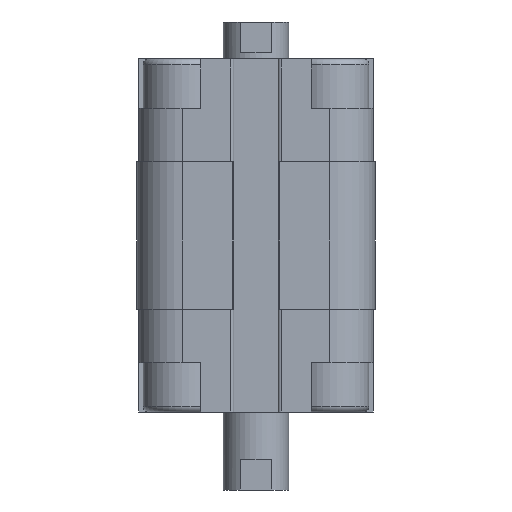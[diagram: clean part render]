
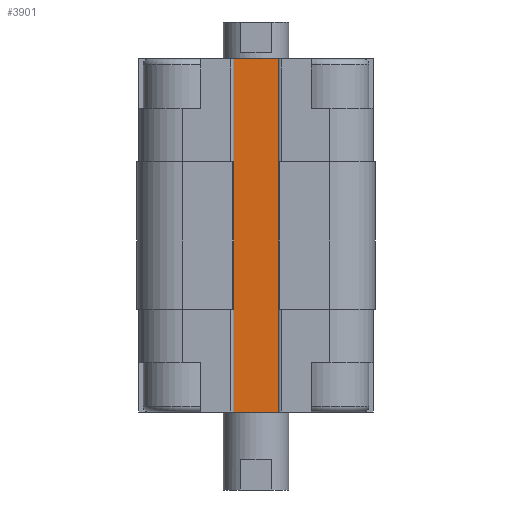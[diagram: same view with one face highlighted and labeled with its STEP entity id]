
A CAD part, front view. The second image highlights one B-rep face of the part: STEP entity #3901.
In plain terms, the highlighted planar face has unit normal (0, -1, 0).
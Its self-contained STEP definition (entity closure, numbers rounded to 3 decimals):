
#115 = CARTESIAN_POINT ( 'NONE',  ( -3., -9.5, 0. ) ) ;
#165 = EDGE_CURVE ( 'NONE', #3560, #2883, #1873, .T. ) ;
#204 = ORIENTED_EDGE ( 'NONE', *, *, #870, .F. ) ;
#387 = ORIENTED_EDGE ( 'NONE', *, *, #10292, .T. ) ;
#528 = EDGE_CURVE ( 'NONE', #15450, #5843, #16664, .T. ) ;
#870 = EDGE_CURVE ( 'NONE', #7872, #7809, #14995, .T. ) ;
#1181 = DIRECTION ( 'NONE',  ( 0., 0., 1. ) ) ;
#1359 = VECTOR ( 'NONE', #11125, 1000. ) ;
#1843 = DIRECTION ( 'NONE',  ( 0., 0., 1. ) ) ;
#1873 = LINE ( 'NONE', #10033, #1359 ) ;
#1909 = ORIENTED_EDGE ( 'NONE', *, *, #9753, .T. ) ;
#2014 = EDGE_LOOP ( 'NONE', ( #2110, #204, #8132, #13985, #6516, #9362, #387, #7762, #3799, #1909, #8771, #4314 ) ) ;
#2110 = ORIENTED_EDGE ( 'NONE', *, *, #2886, .F. ) ;
#2193 = LINE ( 'NONE', #6233, #3346 ) ;
#2379 = CARTESIAN_POINT ( 'NONE',  ( 3., -9.5, -43. ) ) ;
#2659 = DIRECTION ( 'NONE',  ( 1., 0., 0. ) ) ;
#2714 = DIRECTION ( 'NONE',  ( 0., 0., 1. ) ) ;
#2883 = VERTEX_POINT ( 'NONE', #5489 ) ;
#2886 = EDGE_CURVE ( 'NONE', #7809, #3159, #5578, .T. ) ;
#2922 = VECTOR ( 'NONE', #2659, 1000. ) ;
#2937 = DIRECTION ( 'NONE',  ( 0., 0., 1. ) ) ;
#3159 = VERTEX_POINT ( 'NONE', #11908 ) ;
#3346 = VECTOR ( 'NONE', #4886, 1000. ) ;
#3525 = FACE_OUTER_BOUND ( 'NONE', #2014, .T. ) ;
#3560 = VERTEX_POINT ( 'NONE', #12064 ) ;
#3799 = ORIENTED_EDGE ( 'NONE', *, *, #13573, .T. ) ;
#3901 = ADVANCED_FACE ( 'NONE', ( #3525 ), #16078, .T. ) ;
#4034 = EDGE_CURVE ( 'NONE', #3560, #3159, #4324, .T. ) ;
#4149 = CARTESIAN_POINT ( 'NONE',  ( -3., -9.5, -12.5 ) ) ;
#4314 = ORIENTED_EDGE ( 'NONE', *, *, #4034, .T. ) ;
#4324 = LINE ( 'NONE', #8269, #7095 ) ;
#4886 = DIRECTION ( 'NONE',  ( 1., 0., 0. ) ) ;
#5012 = DIRECTION ( 'NONE',  ( 0., 0., 1. ) ) ;
#5100 = EDGE_CURVE ( 'NONE', #16926, #5843, #9343, .T. ) ;
#5411 = CARTESIAN_POINT ( 'NONE',  ( -3.2, -9.5, -30.5 ) ) ;
#5489 = CARTESIAN_POINT ( 'NONE',  ( 3.2, -9.5, -12.5 ) ) ;
#5578 = LINE ( 'NONE', #10781, #15739 ) ;
#5843 = VERTEX_POINT ( 'NONE', #10040 ) ;
#6231 = AXIS2_PLACEMENT_3D ( 'NONE', #14810, #14629, #14537 ) ;
#6233 = CARTESIAN_POINT ( 'NONE',  ( -3.2, -9.5, -30.5 ) ) ;
#6344 = EDGE_CURVE ( 'NONE', #17343, #6444, #11812, .T. ) ;
#6444 = VERTEX_POINT ( 'NONE', #16374 ) ;
#6449 = CARTESIAN_POINT ( 'NONE',  ( 3.2, -9.5, -30.5 ) ) ;
#6516 = ORIENTED_EDGE ( 'NONE', *, *, #5100, .T. ) ;
#7023 = CARTESIAN_POINT ( 'NONE',  ( -3., -9.5, -12.5 ) ) ;
#7095 = VECTOR ( 'NONE', #1181, 1000. ) ;
#7122 = DIRECTION ( 'NONE',  ( 1., 0., 0. ) ) ;
#7231 = CARTESIAN_POINT ( 'NONE',  ( -3., -9.5, -43. ) ) ;
#7762 = ORIENTED_EDGE ( 'NONE', *, *, #6344, .T. ) ;
#7809 = VERTEX_POINT ( 'NONE', #115 ) ;
#7872 = VERTEX_POINT ( 'NONE', #7023 ) ;
#7961 = LINE ( 'NONE', #13422, #15393 ) ;
#7977 = LINE ( 'NONE', #6449, #9192 ) ;
#8132 = ORIENTED_EDGE ( 'NONE', *, *, #12049, .F. ) ;
#8269 = CARTESIAN_POINT ( 'NONE',  ( 3., -9.5, -12.5 ) ) ;
#8368 = VECTOR ( 'NONE', #11559, 1000. ) ;
#8630 = CARTESIAN_POINT ( 'NONE',  ( -3.2, -9.5, -12.5 ) ) ;
#8771 = ORIENTED_EDGE ( 'NONE', *, *, #165, .F. ) ;
#9192 = VECTOR ( 'NONE', #5012, 1000. ) ;
#9343 = LINE ( 'NONE', #17342, #9783 ) ;
#9362 = ORIENTED_EDGE ( 'NONE', *, *, #528, .F. ) ;
#9367 = VECTOR ( 'NONE', #2937, 1000. ) ;
#9523 = VECTOR ( 'NONE', #1843, 1000. ) ;
#9753 = EDGE_CURVE ( 'NONE', #17444, #2883, #7977, .T. ) ;
#9783 = VECTOR ( 'NONE', #10606, 1000. ) ;
#10033 = CARTESIAN_POINT ( 'NONE',  ( 9., -9.5, -12.5 ) ) ;
#10040 = CARTESIAN_POINT ( 'NONE',  ( -3., -9.5, -30.5 ) ) ;
#10292 = EDGE_CURVE ( 'NONE', #15450, #17343, #12166, .T. ) ;
#10606 = DIRECTION ( 'NONE',  ( 1., 0., 0. ) ) ;
#10781 = CARTESIAN_POINT ( 'NONE',  ( -3., -9.5, 0. ) ) ;
#10961 = CARTESIAN_POINT ( 'NONE',  ( 3.2, -9.5, -30.5 ) ) ;
#10965 = DIRECTION ( 'NONE',  ( 1., 0., 0. ) ) ;
#11125 = DIRECTION ( 'NONE',  ( 1., 0., 0. ) ) ;
#11270 = CARTESIAN_POINT ( 'NONE',  ( -3.2, -9.5, -30.5 ) ) ;
#11559 = DIRECTION ( 'NONE',  ( 0., 0., 1. ) ) ;
#11812 = LINE ( 'NONE', #2379, #8368 ) ;
#11908 = CARTESIAN_POINT ( 'NONE',  ( 3., -9.5, 0. ) ) ;
#12049 = EDGE_CURVE ( 'NONE', #14308, #7872, #7961, .T. ) ;
#12064 = CARTESIAN_POINT ( 'NONE',  ( 3., -9.5, -12.5 ) ) ;
#12166 = LINE ( 'NONE', #17645, #2922 ) ;
#13422 = CARTESIAN_POINT ( 'NONE',  ( -3.2, -9.5, -12.5 ) ) ;
#13573 = EDGE_CURVE ( 'NONE', #6444, #17444, #2193, .T. ) ;
#13955 = CARTESIAN_POINT ( 'NONE',  ( -3., -9.5, -43. ) ) ;
#13985 = ORIENTED_EDGE ( 'NONE', *, *, #16627, .F. ) ;
#14308 = VERTEX_POINT ( 'NONE', #8630 ) ;
#14537 = DIRECTION ( 'NONE',  ( -1., 0., 0. ) ) ;
#14629 = DIRECTION ( 'NONE',  ( 0., -1., 0. ) ) ;
#14810 = CARTESIAN_POINT ( 'NONE',  ( -3., -9.5, -12.5 ) ) ;
#14895 = CARTESIAN_POINT ( 'NONE',  ( 3., -9.5, -43. ) ) ;
#14995 = LINE ( 'NONE', #4149, #17729 ) ;
#15393 = VECTOR ( 'NONE', #7122, 1000. ) ;
#15450 = VERTEX_POINT ( 'NONE', #7231 ) ;
#15739 = VECTOR ( 'NONE', #10965, 1000. ) ;
#16078 = PLANE ( 'NONE',  #6231 ) ;
#16374 = CARTESIAN_POINT ( 'NONE',  ( 3., -9.5, -30.5 ) ) ;
#16627 = EDGE_CURVE ( 'NONE', #16926, #14308, #16745, .T. ) ;
#16664 = LINE ( 'NONE', #13955, #9367 ) ;
#16745 = LINE ( 'NONE', #11270, #9523 ) ;
#16926 = VERTEX_POINT ( 'NONE', #5411 ) ;
#17342 = CARTESIAN_POINT ( 'NONE',  ( -3.2, -9.5, -30.5 ) ) ;
#17343 = VERTEX_POINT ( 'NONE', #14895 ) ;
#17444 = VERTEX_POINT ( 'NONE', #10961 ) ;
#17645 = CARTESIAN_POINT ( 'NONE',  ( -3., -9.5, -43. ) ) ;
#17729 = VECTOR ( 'NONE', #2714, 1000. ) ;
